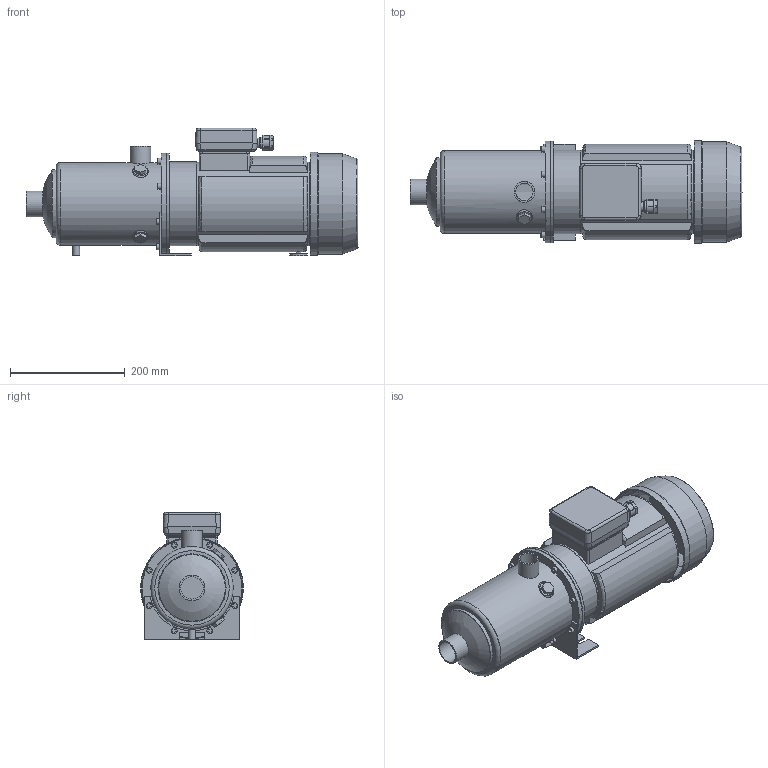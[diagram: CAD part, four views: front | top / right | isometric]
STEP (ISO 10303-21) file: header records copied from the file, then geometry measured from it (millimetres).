
FILE_DESCRIPTION(/* description */ ('Unknown'),/* implementation_level */ '2;1');
FILE_NAME(/* name */ 'MH 5 [7] T6 IE3',/* time_stamp */ '2026-07-10T15:12:29+02:00',/* author */ ('Unknown'),/* organization */ ('Unknown'),/* preprocessor_version */ 'ST-DEVELOPER v20',/* originating_system */ 'Solid Edge',/* authorisation */ 'Unknown');
FILE_SCHEMA (('AUTOMOTIVE_DESIGN {1 0 10303 214 3 1 1}'));
Length unit declared in the file: millimetre
Products named in the file (10): MH 5 [7] T6 IE3; Flangia motore Tonda M90; Corpo MH 3-5 [7]; Motore MEC 90 - T [3kW IE3]; carcassa MEC 90 [3kW IE3]; Copriventola MEC 90; Ghiera PG13,5 cod. SAV.GHI.20; Basetta MEC 80-90-100 T; Piedino MEC 90 int.90; Staffa 3-5-9 int.90
Assembly tree (9 placements, depth 3):
  MH 5 [7] T6 IE3
    Flangia motore Tonda M90
    Corpo MH 3-5 [7]
    Motore MEC 90 - T [3kW IE3]
      carcassa MEC 90 [3kW IE3]
      Copriventola MEC 90
      Ghiera PG13,5 cod. SAV.GHI.20
      Basetta MEC 80-90-100 T
    Piedino MEC 90 int.90
    Staffa 3-5-9 int.90
Bounding box: 577.6 x 179.1 x 221.5 mm (x, y, z)
Volume: 3159138.6 mm3; surface area: 732709 mm2
Topology: 8 solids, 8 shells, 323 faces, 769 edges, 509 vertices
Faces by surface type: plane 181, cylinder 101, cone 20, torus 11, bspline 8, sphere 2
Full cylindrical faces by diameter (mm): 7 x4, 10 x9, 12 x1, 13 x1, 17 x1, 19.73 x1, 20.4 x1, 21 x1, 30 x1, 30.291 x1, 36 x1, 38.952 x1, 44.5 x1, 116.1 x1, 118.5 x1, 135 x1, 140 x3, 141.1 x1, 143.5 x1, 145 x1, 146 x1, 169.5 x1, 173.5 x1, 174.1 x2, 174.5 x1, 176.5 x2, 179.1 x1
Entity records: 10622 total; most frequent: CARTESIAN_POINT 1964, DIRECTION 1513, ORIENTED_EDGE 1354, EDGE_CURVE 677, AXIS2_PLACEMENT_3D 564, VERTEX_POINT 479, EDGE_LOOP 442, FACE_BOUND 442
